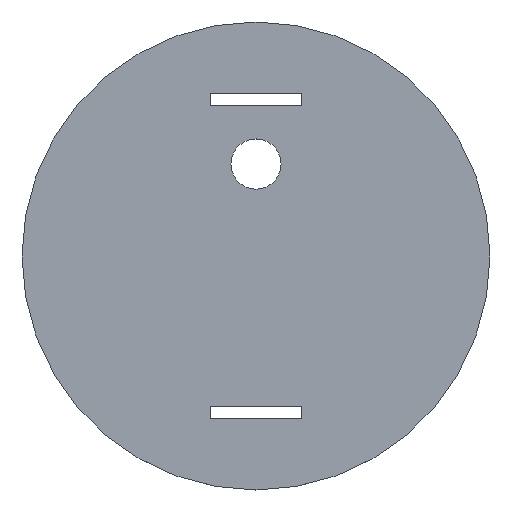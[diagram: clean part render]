
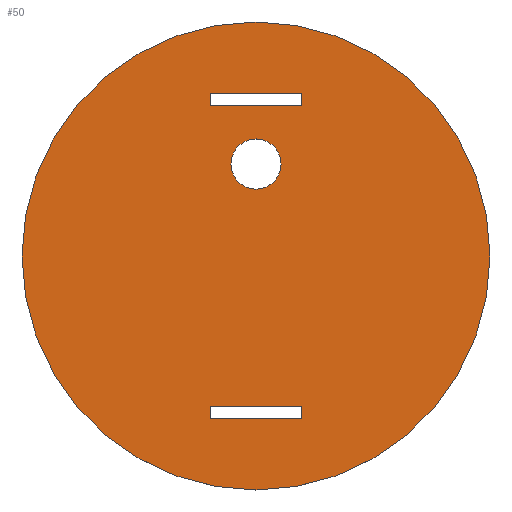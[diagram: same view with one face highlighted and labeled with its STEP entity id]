
A CAD part, top view. The second image highlights one B-rep face of the part: STEP entity #50.
In plain terms, the highlighted planar face has unit normal (0, 0, 1).
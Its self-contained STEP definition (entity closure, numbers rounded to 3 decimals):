
#21 = EDGE_CURVE('',#22,#22,#24,.T.);
#22 = VERTEX_POINT('',#23);
#23 = CARTESIAN_POINT('',(56.,0.,28.));
#24 = CIRCLE('',#25,56.);
#25 = AXIS2_PLACEMENT_3D('',#26,#27,#28);
#26 = CARTESIAN_POINT('',(0.,0.,28.));
#27 = DIRECTION('',(0.,0.,1.));
#28 = DIRECTION('',(1.,0.,0.));
#50 = ADVANCED_FACE('',(#51,#54,#88,#99),#133,.T.);
#51 = FACE_BOUND('',#52,.T.);
#52 = EDGE_LOOP('',(#53));
#53 = ORIENTED_EDGE('',*,*,#21,.T.);
#54 = FACE_BOUND('',#55,.T.);
#55 = EDGE_LOOP('',(#56,#66,#74,#82));
#56 = ORIENTED_EDGE('',*,*,#57,.T.);
#57 = EDGE_CURVE('',#58,#60,#62,.T.);
#58 = VERTEX_POINT('',#59);
#59 = CARTESIAN_POINT('',(11.,-39.,28.));
#60 = VERTEX_POINT('',#61);
#61 = CARTESIAN_POINT('',(-11.,-39.,28.));
#62 = LINE('',#63,#64);
#63 = CARTESIAN_POINT('',(-5.5,-39.,28.));
#64 = VECTOR('',#65,1.);
#65 = DIRECTION('',(-1.,0.,0.));
#66 = ORIENTED_EDGE('',*,*,#67,.T.);
#67 = EDGE_CURVE('',#60,#68,#70,.T.);
#68 = VERTEX_POINT('',#69);
#69 = CARTESIAN_POINT('',(-11.,-36.,28.));
#70 = LINE('',#71,#72);
#71 = CARTESIAN_POINT('',(-11.,-19.5,28.));
#72 = VECTOR('',#73,1.);
#73 = DIRECTION('',(0.,1.,0.));
#74 = ORIENTED_EDGE('',*,*,#75,.F.);
#75 = EDGE_CURVE('',#76,#68,#78,.T.);
#76 = VERTEX_POINT('',#77);
#77 = CARTESIAN_POINT('',(11.,-36.,28.));
#78 = LINE('',#79,#80);
#79 = CARTESIAN_POINT('',(-5.5,-36.,28.));
#80 = VECTOR('',#81,1.);
#81 = DIRECTION('',(-1.,0.,0.));
#82 = ORIENTED_EDGE('',*,*,#83,.F.);
#83 = EDGE_CURVE('',#58,#76,#84,.T.);
#84 = LINE('',#85,#86);
#85 = CARTESIAN_POINT('',(11.,-19.5,28.));
#86 = VECTOR('',#87,1.);
#87 = DIRECTION('',(0.,1.,0.));
#88 = FACE_BOUND('',#89,.T.);
#89 = EDGE_LOOP('',(#90));
#90 = ORIENTED_EDGE('',*,*,#91,.F.);
#91 = EDGE_CURVE('',#92,#92,#94,.T.);
#92 = VERTEX_POINT('',#93);
#93 = CARTESIAN_POINT('',(6.,22.,28.));
#94 = CIRCLE('',#95,6.);
#95 = AXIS2_PLACEMENT_3D('',#96,#97,#98);
#96 = CARTESIAN_POINT('',(0.,22.,28.));
#97 = DIRECTION('',(0.,0.,1.));
#98 = DIRECTION('',(1.,0.,0.));
#99 = FACE_BOUND('',#100,.T.);
#100 = EDGE_LOOP('',(#101,#111,#119,#127));
#101 = ORIENTED_EDGE('',*,*,#102,.T.);
#102 = EDGE_CURVE('',#103,#105,#107,.T.);
#103 = VERTEX_POINT('',#104);
#104 = CARTESIAN_POINT('',(11.,36.,28.));
#105 = VERTEX_POINT('',#106);
#106 = CARTESIAN_POINT('',(-11.,36.,28.));
#107 = LINE('',#108,#109);
#108 = CARTESIAN_POINT('',(-5.5,36.,28.));
#109 = VECTOR('',#110,1.);
#110 = DIRECTION('',(-1.,0.,0.));
#111 = ORIENTED_EDGE('',*,*,#112,.T.);
#112 = EDGE_CURVE('',#105,#113,#115,.T.);
#113 = VERTEX_POINT('',#114);
#114 = CARTESIAN_POINT('',(-11.,39.,28.));
#115 = LINE('',#116,#117);
#116 = CARTESIAN_POINT('',(-11.,18.,28.));
#117 = VECTOR('',#118,1.);
#118 = DIRECTION('',(0.,1.,0.));
#119 = ORIENTED_EDGE('',*,*,#120,.F.);
#120 = EDGE_CURVE('',#121,#113,#123,.T.);
#121 = VERTEX_POINT('',#122);
#122 = CARTESIAN_POINT('',(11.,39.,28.));
#123 = LINE('',#124,#125);
#124 = CARTESIAN_POINT('',(-5.5,39.,28.));
#125 = VECTOR('',#126,1.);
#126 = DIRECTION('',(-1.,0.,0.));
#127 = ORIENTED_EDGE('',*,*,#128,.F.);
#128 = EDGE_CURVE('',#103,#121,#129,.T.);
#129 = LINE('',#130,#131);
#130 = CARTESIAN_POINT('',(11.,18.,28.));
#131 = VECTOR('',#132,1.);
#132 = DIRECTION('',(0.,1.,0.));
#133 = PLANE('',#134);
#134 = AXIS2_PLACEMENT_3D('',#135,#136,#137);
#135 = CARTESIAN_POINT('',(0.,0.,28.));
#136 = DIRECTION('',(0.,0.,1.));
#137 = DIRECTION('',(1.,0.,0.));
